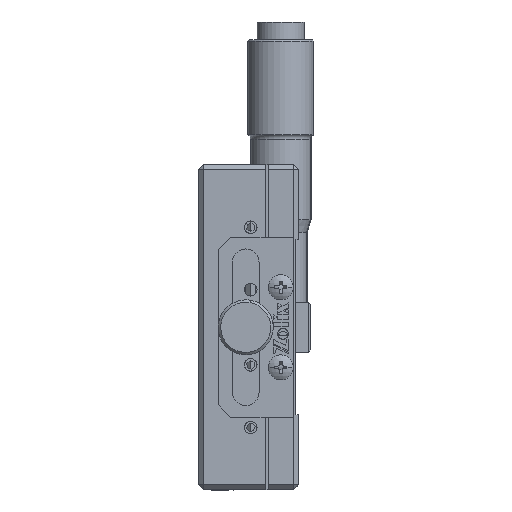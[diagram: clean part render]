
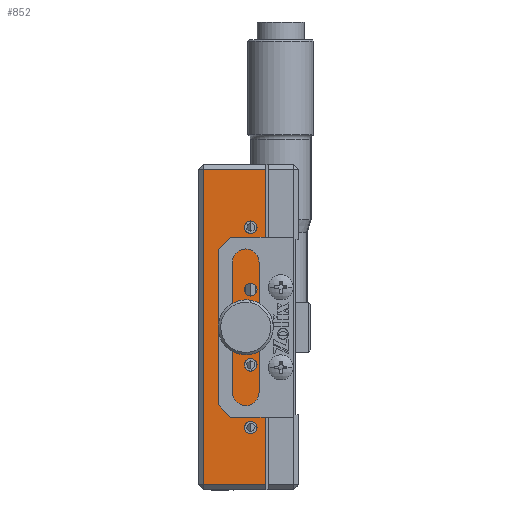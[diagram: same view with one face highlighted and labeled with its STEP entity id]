
A CAD part, left-side view. The second image highlights one B-rep face of the part: STEP entity #852.
In plain terms, the highlighted planar face has unit normal (-1, 0, 0).
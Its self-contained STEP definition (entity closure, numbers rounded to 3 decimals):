
#324 = VERTEX_POINT ( 'NONE', #4822 ) ;
#401 = CIRCLE ( 'NONE', #23850, 2.1 ) ;
#852 = ADVANCED_FACE ( 'NONE', ( #6529, #21262, #24906, #26209, #15937, #20268 ), #13177, .T. ) ;
#922 = CARTESIAN_POINT ( 'NONE',  ( -32.108, 6.518, 81.723 ) ) ;
#941 = LINE ( 'NONE', #23298, #4638 ) ;
#1299 = EDGE_CURVE ( 'NONE', #24945, #12177, #9853, .T. ) ;
#1545 = EDGE_CURVE ( 'NONE', #27454, #16703, #25843, .T. ) ;
#1578 = DIRECTION ( 'NONE',  ( -1., 0., 0. ) ) ;
#1645 = CARTESIAN_POINT ( 'NONE',  ( -32.108, 3.518, 30.223 ) ) ;
#1654 = EDGE_CURVE ( 'NONE', #26266, #21535, #20213, .T. ) ;
#1820 = EDGE_CURVE ( 'NONE', #13077, #27554, #401, .T. ) ;
#1868 = ORIENTED_EDGE ( 'NONE', *, *, #23479, .F. ) ;
#2054 = ORIENTED_EDGE ( 'NONE', *, *, #18938, .F. ) ;
#3243 = ORIENTED_EDGE ( 'NONE', *, *, #26156, .T. ) ;
#3701 = DIRECTION ( 'NONE',  ( 0., 0., 1. ) ) ;
#3735 = CARTESIAN_POINT ( 'NONE',  ( -32.108, 7.518, 63.823 ) ) ;
#3871 = CARTESIAN_POINT ( 'NONE',  ( -32.108, 7.518, 59.623 ) ) ;
#3967 = EDGE_LOOP ( 'NONE', ( #26969, #19486, #16387, #3243 ) ) ;
#4113 = VECTOR ( 'NONE', #25605, 1000. ) ;
#4121 = CARTESIAN_POINT ( 'NONE',  ( -32.108, 7.518, 61.723 ) ) ;
#4638 = VECTOR ( 'NONE', #16929, 1000. ) ;
#4822 = CARTESIAN_POINT ( 'NONE',  ( -32.108, 6.518, 70.473 ) ) ;
#5132 = ORIENTED_EDGE ( 'NONE', *, *, #23843, .F. ) ;
#5536 = AXIS2_PLACEMENT_3D ( 'NONE', #7500, #26601, #15854 ) ;
#5755 = AXIS2_PLACEMENT_3D ( 'NONE', #27254, #18646, #14452 ) ;
#5817 = CARTESIAN_POINT ( 'NONE',  ( -32.108, 3.518, 93.223 ) ) ;
#6132 = CARTESIAN_POINT ( 'NONE',  ( -32.108, 6.518, 52.973 ) ) ;
#6211 = EDGE_LOOP ( 'NONE', ( #16099, #9942 ) ) ;
#6260 = VERTEX_POINT ( 'NONE', #18709 ) ;
#6261 = CIRCLE ( 'NONE', #5536, 1.25 ) ;
#6529 = FACE_BOUND ( 'NONE', #14369, .T. ) ;
#6669 = CARTESIAN_POINT ( 'NONE',  ( -32.108, 3.518, 29.223 ) ) ;
#7395 = AXIS2_PLACEMENT_3D ( 'NONE', #922, #24388, #7519 ) ;
#7500 = CARTESIAN_POINT ( 'NONE',  ( -32.108, 6.518, 41.723 ) ) ;
#7503 = VECTOR ( 'NONE', #11247, 1000. ) ;
#7519 = DIRECTION ( 'NONE',  ( 0., 0., 1. ) ) ;
#8210 = DIRECTION ( 'NONE',  ( -1., 0., 0. ) ) ;
#8294 = CARTESIAN_POINT ( 'NONE',  ( -32.108, 6.518, 54.223 ) ) ;
#8318 = LINE ( 'NONE', #17518, #25308 ) ;
#8680 = DIRECTION ( 'NONE',  ( -1., 0., 0. ) ) ;
#8939 = AXIS2_PLACEMENT_3D ( 'NONE', #14919, #27436, #27343 ) ;
#9122 = CIRCLE ( 'NONE', #23709, 1.25 ) ;
#9746 = DIRECTION ( 'NONE',  ( 0., 0., 1. ) ) ;
#9818 = EDGE_LOOP ( 'NONE', ( #1868, #23686 ) ) ;
#9853 = CIRCLE ( 'NONE', #13675, 1.25 ) ;
#9942 = ORIENTED_EDGE ( 'NONE', *, *, #1820, .F. ) ;
#10235 = VERTEX_POINT ( 'NONE', #12810 ) ;
#10486 = LINE ( 'NONE', #19067, #4113 ) ;
#10493 = AXIS2_PLACEMENT_3D ( 'NONE', #12084, #26782, #9746 ) ;
#10733 = CARTESIAN_POINT ( 'NONE',  ( -32.108, 3.518, 29.223 ) ) ;
#10871 = EDGE_CURVE ( 'NONE', #21719, #6260, #941, .T. ) ;
#11247 = DIRECTION ( 'NONE',  ( 0., 0., 1. ) ) ;
#11416 = CARTESIAN_POINT ( 'NONE',  ( -32.108, 6.518, 82.973 ) ) ;
#11960 = ORIENTED_EDGE ( 'NONE', *, *, #1654, .F. ) ;
#12084 = CARTESIAN_POINT ( 'NONE',  ( -32.108, 6.518, 81.723 ) ) ;
#12177 = VERTEX_POINT ( 'NONE', #25143 ) ;
#12794 = CIRCLE ( 'NONE', #17500, 1.25 ) ;
#12810 = CARTESIAN_POINT ( 'NONE',  ( -32.108, 6.518, 42.973 ) ) ;
#13077 = VERTEX_POINT ( 'NONE', #3871 ) ;
#13177 = PLANE ( 'NONE',  #16213 ) ;
#13188 = ORIENTED_EDGE ( 'NONE', *, *, #26275, .F. ) ;
#13675 = AXIS2_PLACEMENT_3D ( 'NONE', #8294, #8210, #3701 ) ;
#13795 = CARTESIAN_POINT ( 'NONE',  ( -32.108, 6.518, 40.473 ) ) ;
#14369 = EDGE_LOOP ( 'NONE', ( #2054, #22858 ) ) ;
#14452 = DIRECTION ( 'NONE',  ( 0., 0., 1. ) ) ;
#14759 = DIRECTION ( 'NONE',  ( 0., 0., 1. ) ) ;
#14919 = CARTESIAN_POINT ( 'NONE',  ( -32.108, 6.518, 69.223 ) ) ;
#15096 = EDGE_CURVE ( 'NONE', #21535, #26266, #19104, .T. ) ;
#15514 = DIRECTION ( 'NONE',  ( 0., 0., 1. ) ) ;
#15854 = DIRECTION ( 'NONE',  ( 0., 0., 1. ) ) ;
#15937 = FACE_BOUND ( 'NONE', #6211, .T. ) ;
#16099 = ORIENTED_EDGE ( 'NONE', *, *, #19050, .F. ) ;
#16168 = VERTEX_POINT ( 'NONE', #13795 ) ;
#16213 = AXIS2_PLACEMENT_3D ( 'NONE', #10733, #8680, #19280 ) ;
#16387 = ORIENTED_EDGE ( 'NONE', *, *, #10871, .T. ) ;
#16703 = VERTEX_POINT ( 'NONE', #5817 ) ;
#16884 = DIRECTION ( 'NONE',  ( -1., 0., 0. ) ) ;
#16929 = DIRECTION ( 'NONE',  ( 0., 0., -1. ) ) ;
#17500 = AXIS2_PLACEMENT_3D ( 'NONE', #27365, #1578, #14759 ) ;
#17518 = CARTESIAN_POINT ( 'NONE',  ( -32.108, 3.518, 30.223 ) ) ;
#18160 = DIRECTION ( 'NONE',  ( -1., 0., 0. ) ) ;
#18646 = DIRECTION ( 'NONE',  ( -1., 0., 0. ) ) ;
#18709 = CARTESIAN_POINT ( 'NONE',  ( -32.108, 16.018, 30.223 ) ) ;
#18853 = CARTESIAN_POINT ( 'NONE',  ( -32.108, 6.518, 67.973 ) ) ;
#18938 = EDGE_CURVE ( 'NONE', #12177, #24945, #27493, .T. ) ;
#19050 = EDGE_CURVE ( 'NONE', #27554, #13077, #24821, .T. ) ;
#19067 = CARTESIAN_POINT ( 'NONE',  ( -32.108, 3.518, 93.223 ) ) ;
#19104 = CIRCLE ( 'NONE', #10493, 1.25 ) ;
#19280 = DIRECTION ( 'NONE',  ( 0., 0., 1. ) ) ;
#19486 = ORIENTED_EDGE ( 'NONE', *, *, #23274, .T. ) ;
#19666 = EDGE_LOOP ( 'NONE', ( #11960, #19719 ) ) ;
#19693 = CARTESIAN_POINT ( 'NONE',  ( -32.108, 6.518, 69.223 ) ) ;
#19719 = ORIENTED_EDGE ( 'NONE', *, *, #15096, .F. ) ;
#20132 = CARTESIAN_POINT ( 'NONE',  ( -32.108, 6.518, 54.223 ) ) ;
#20213 = CIRCLE ( 'NONE', #7395, 1.25 ) ;
#20268 = FACE_OUTER_BOUND ( 'NONE', #3967, .T. ) ;
#21262 = FACE_BOUND ( 'NONE', #25826, .T. ) ;
#21535 = VERTEX_POINT ( 'NONE', #27191 ) ;
#21719 = VERTEX_POINT ( 'NONE', #21946 ) ;
#21946 = CARTESIAN_POINT ( 'NONE',  ( -32.108, 16.018, 93.223 ) ) ;
#22059 = DIRECTION ( 'NONE',  ( 0., -1., 0. ) ) ;
#22241 = DIRECTION ( 'NONE',  ( 0., 0., 1. ) ) ;
#22685 = VERTEX_POINT ( 'NONE', #18853 ) ;
#22858 = ORIENTED_EDGE ( 'NONE', *, *, #1299, .F. ) ;
#23274 = EDGE_CURVE ( 'NONE', #16703, #21719, #10486, .T. ) ;
#23298 = CARTESIAN_POINT ( 'NONE',  ( -32.108, 16.018, 29.223 ) ) ;
#23479 = EDGE_CURVE ( 'NONE', #324, #22685, #9122, .T. ) ;
#23686 = ORIENTED_EDGE ( 'NONE', *, *, #26500, .F. ) ;
#23709 = AXIS2_PLACEMENT_3D ( 'NONE', #19693, #26066, #15514 ) ;
#23843 = EDGE_CURVE ( 'NONE', #10235, #16168, #12794, .T. ) ;
#23850 = AXIS2_PLACEMENT_3D ( 'NONE', #4121, #16884, #25137 ) ;
#24388 = DIRECTION ( 'NONE',  ( -1., 0., 0. ) ) ;
#24821 = CIRCLE ( 'NONE', #5755, 2.1 ) ;
#24906 = FACE_BOUND ( 'NONE', #19666, .T. ) ;
#24945 = VERTEX_POINT ( 'NONE', #6132 ) ;
#25137 = DIRECTION ( 'NONE',  ( 0., 0., 1. ) ) ;
#25143 = CARTESIAN_POINT ( 'NONE',  ( -32.108, 6.518, 55.473 ) ) ;
#25238 = AXIS2_PLACEMENT_3D ( 'NONE', #20132, #18160, #22241 ) ;
#25308 = VECTOR ( 'NONE', #22059, 1000. ) ;
#25605 = DIRECTION ( 'NONE',  ( 0., 1., 0. ) ) ;
#25826 = EDGE_LOOP ( 'NONE', ( #5132, #13188 ) ) ;
#25843 = LINE ( 'NONE', #6669, #7503 ) ;
#26066 = DIRECTION ( 'NONE',  ( -1., 0., 0. ) ) ;
#26156 = EDGE_CURVE ( 'NONE', #6260, #27454, #8318, .T. ) ;
#26209 = FACE_BOUND ( 'NONE', #9818, .T. ) ;
#26266 = VERTEX_POINT ( 'NONE', #11416 ) ;
#26275 = EDGE_CURVE ( 'NONE', #16168, #10235, #6261, .T. ) ;
#26500 = EDGE_CURVE ( 'NONE', #22685, #324, #26618, .T. ) ;
#26601 = DIRECTION ( 'NONE',  ( -1., 0., 0. ) ) ;
#26618 = CIRCLE ( 'NONE', #8939, 1.25 ) ;
#26782 = DIRECTION ( 'NONE',  ( -1., 0., 0. ) ) ;
#26969 = ORIENTED_EDGE ( 'NONE', *, *, #1545, .T. ) ;
#27191 = CARTESIAN_POINT ( 'NONE',  ( -32.108, 6.518, 80.473 ) ) ;
#27254 = CARTESIAN_POINT ( 'NONE',  ( -32.108, 7.518, 61.723 ) ) ;
#27343 = DIRECTION ( 'NONE',  ( 0., 0., 1. ) ) ;
#27365 = CARTESIAN_POINT ( 'NONE',  ( -32.108, 6.518, 41.723 ) ) ;
#27436 = DIRECTION ( 'NONE',  ( -1., 0., 0. ) ) ;
#27454 = VERTEX_POINT ( 'NONE', #1645 ) ;
#27493 = CIRCLE ( 'NONE', #25238, 1.25 ) ;
#27554 = VERTEX_POINT ( 'NONE', #3735 ) ;
